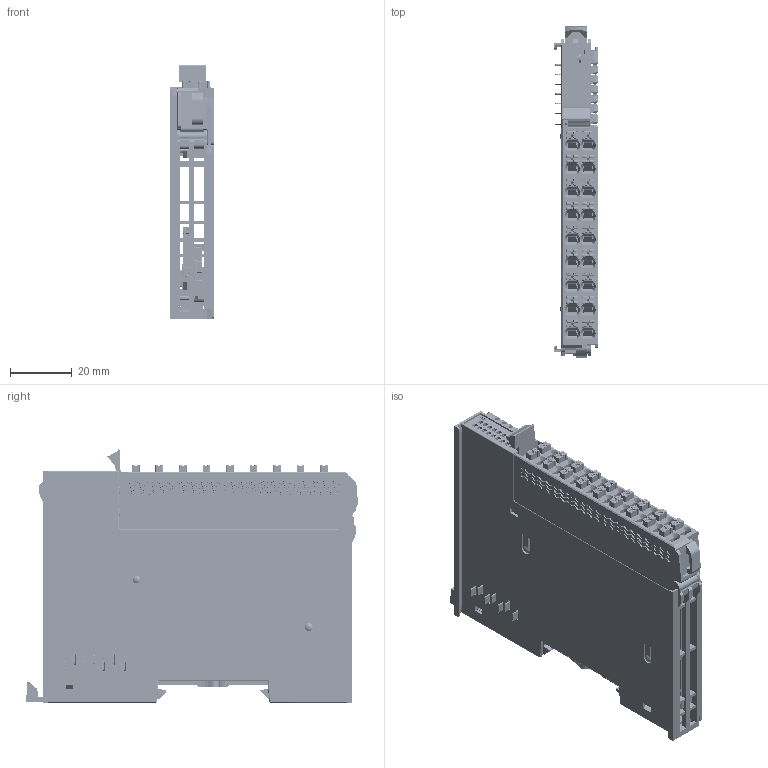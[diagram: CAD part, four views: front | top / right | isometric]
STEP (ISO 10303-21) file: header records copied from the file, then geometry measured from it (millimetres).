
FILE_DESCRIPTION((''),'2;1');
FILE_NAME('R3-IO-1_ASM_ASM','2023-07-06T10:02:03',('Lenovo'),(''),'CREO PARAMETRIC BY PTC INC, 2020033','CREO PARAMETRIC BY PTC INC, 2020033','');
FILE_SCHEMA(('CONFIG_CONTROL_DESIGN'));
Products named in the file (32): R3-IO-LEFT-1_193; R3-IO-RIGHT-1_108; R3-IO-PCB_59; 7PIN-LIANJIEQI_9; 7PIN-LIANJIEQI-GUDINGJIAO_1; 7PIN-LIANJIEQI-TIANPIAN01_1; 7PIN-LIANJIEQI-TIANPIAN06_1; 7PIN-LIANJIEQI-TIANPIAN02_1; 7PIN-LIANJIEQI-TIANPIAN03_4; 7PIN-LIANJIEQI-TIANPIAN04_8; 7PIN-LIANJIEQI-TIANPIAN05_2; 7PIN-LIANJIEQI_ASM_18_ASM; LED_2; WF12508-03200_20_1; WF12508-03200_20_2; WF12508-03200_20_ASM; R3-IO-PCB_ASM_16_ASM; 18PIN-DUANZI-WAIKE_6; 18PIN-DUANZI-SM01_1; 18PIN-DUANZI-SM02_1; 18PIN-DUANZI-SM_ASM_5_ASM; 18PIN-DUANZI-LM01_1; 18PIN-DUANZI-LM02_1; 18PIN-DUANZI-LM_ASM_3_ASM; 18PIN-DUANZI-TOUJIAO_3; 18PIN-DUANZI-ZHONGJIAO_2; 18PIN-DUANZI-WEIJIAO_2; 18PIN-DUANZI-ANJIAN_2; 18PIN-DUANZI_ASM_14_ASM; R3-IO-KAKOU_43; R3-IO-1_ASM_64_ASM; R3-IO-1_ASM_ASM
Assembly tree (98 placements, depth 5):
  R3-IO-1_ASM_ASM
    R3-IO-1_ASM_64_ASM
      R3-IO-LEFT-1_193
      R3-IO-RIGHT-1_108
      R3-IO-PCB_ASM_16_ASM
        R3-IO-PCB_59
        7PIN-LIANJIEQI_ASM_18_ASM
          7PIN-LIANJIEQI_9
          7PIN-LIANJIEQI-GUDINGJIAO_1  x4
          7PIN-LIANJIEQI-TIANPIAN01_1  x3
          7PIN-LIANJIEQI-TIANPIAN06_1
          7PIN-LIANJIEQI-TIANPIAN02_1  x3
          7PIN-LIANJIEQI-TIANPIAN03_4  x3
          7PIN-LIANJIEQI-TIANPIAN04_8  x3
          7PIN-LIANJIEQI-TIANPIAN05_2
        LED_2  x18
        WF12508-03200_20_ASM
          WF12508-03200_20_1
          WF12508-03200_20_2
      18PIN-DUANZI_ASM_14_ASM
        18PIN-DUANZI-WAIKE_6
        18PIN-DUANZI-SM_ASM_5_ASM  x9
          18PIN-DUANZI-SM01_1
          18PIN-DUANZI-SM02_1
        18PIN-DUANZI-LM_ASM_3_ASM  x9
          18PIN-DUANZI-LM01_1
          18PIN-DUANZI-LM02_1
        18PIN-DUANZI-TOUJIAO_3
        18PIN-DUANZI-ZHONGJIAO_2  x7
        18PIN-DUANZI-WEIJIAO_2
        18PIN-DUANZI-ANJIAN_2  x18
      R3-IO-KAKOU_43
Bounding box: 14.5 x 107.55 x 82.09 mm (x, y, z)
Volume: 36010.1 mm3; surface area: 84290.6 mm2
Topology: 107 solids, 107 shells, 18982 faces, 53276 edges, 34290 vertices
Faces by surface type: plane 11047, cylinder 4417, bspline 2135, cone 789, torus 322, sphere 270, extrusion 2
Entity records: 313285 total; most frequent: CARTESIAN_POINT 83528, ORIENTED_EDGE 50350, DIRECTION 44896, EDGE_CURVE 25175, VECTOR 19108, LINE 19106, VERTEX_POINT 16549, AXIS2_PLACEMENT_3D 12894
